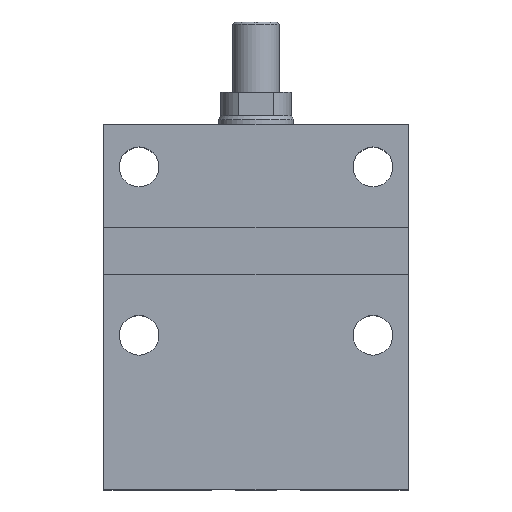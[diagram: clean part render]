
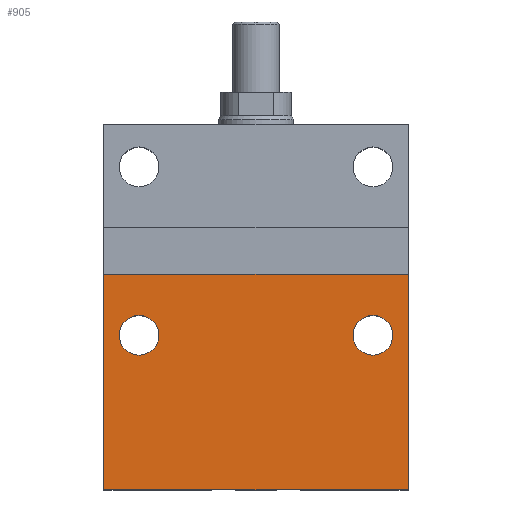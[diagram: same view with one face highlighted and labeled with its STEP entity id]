
A CAD part, top view. The second image highlights one B-rep face of the part: STEP entity #905.
In plain terms, the highlighted planar face has unit normal (0, 0, 1).
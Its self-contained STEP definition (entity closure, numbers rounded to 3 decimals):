
#40 = FACE_BOUND ( 'NONE', #2728, .T. ) ;
#43 = LINE ( 'NONE', #2723, #2615 ) ;
#243 = CARTESIAN_POINT ( 'NONE',  ( 29.25, 33., 22.5 ) ) ;
#273 = DIRECTION ( 'NONE',  ( 0., 0., -1. ) ) ;
#281 = CARTESIAN_POINT ( 'NONE',  ( -32.5, 0., 22.5 ) ) ;
#286 = ORIENTED_EDGE ( 'NONE', *, *, #2476, .F. ) ;
#298 = VECTOR ( 'NONE', #1770, 1000. ) ;
#362 = CARTESIAN_POINT ( 'NONE',  ( -25., 33., 22.5 ) ) ;
#367 = CARTESIAN_POINT ( 'NONE',  ( 25., 33., 22.5 ) ) ;
#405 = VERTEX_POINT ( 'NONE', #1231 ) ;
#480 = AXIS2_PLACEMENT_3D ( 'NONE', #2002, #1560, #1374 ) ;
#505 = DIRECTION ( 'NONE',  ( 1., 0., 0. ) ) ;
#595 = DIRECTION ( 'NONE',  ( 0., 0., 1. ) ) ;
#678 = EDGE_CURVE ( 'NONE', #1819, #2264, #43, .T. ) ;
#732 = DIRECTION ( 'NONE',  ( -1., 0., 0. ) ) ;
#756 = CARTESIAN_POINT ( 'NONE',  ( -32.5, 58., 22.5 ) ) ;
#781 = ORIENTED_EDGE ( 'NONE', *, *, #2014, .F. ) ;
#833 = EDGE_CURVE ( 'NONE', #2347, #405, #1202, .T. ) ;
#841 = CIRCLE ( 'NONE', #480, 4.25 ) ;
#890 = ORIENTED_EDGE ( 'NONE', *, *, #678, .T. ) ;
#905 = ADVANCED_FACE ( 'NONE', ( #40, #1096, #2845 ), #1636, .F. ) ;
#968 = VERTEX_POINT ( 'NONE', #1253 ) ;
#994 = DIRECTION ( 'NONE',  ( 1., 0., 0. ) ) ;
#1074 = DIRECTION ( 'NONE',  ( 1., 0., 0. ) ) ;
#1096 = FACE_BOUND ( 'NONE', #2680, .T. ) ;
#1135 = DIRECTION ( 'NONE',  ( 0., -1., 0. ) ) ;
#1193 = CARTESIAN_POINT ( 'NONE',  ( -32.5, 46., 22.5 ) ) ;
#1202 = CIRCLE ( 'NONE', #2520, 4.25 ) ;
#1209 = DIRECTION ( 'NONE',  ( 0., 0., 1. ) ) ;
#1231 = CARTESIAN_POINT ( 'NONE',  ( -29.25, 33., 22.5 ) ) ;
#1253 = CARTESIAN_POINT ( 'NONE',  ( 32.5, 0., 22.5 ) ) ;
#1325 = EDGE_LOOP ( 'NONE', ( #781, #2393, #890, #1594 ) ) ;
#1374 = DIRECTION ( 'NONE',  ( 1., 0., 0. ) ) ;
#1381 = LINE ( 'NONE', #1431, #2463 ) ;
#1425 = CARTESIAN_POINT ( 'NONE',  ( 32.5, 46., 22.5 ) ) ;
#1431 = CARTESIAN_POINT ( 'NONE',  ( -32.5, 46., 22.5 ) ) ;
#1484 = LINE ( 'NONE', #2801, #2104 ) ;
#1560 = DIRECTION ( 'NONE',  ( 0., 0., 1. ) ) ;
#1561 = EDGE_CURVE ( 'NONE', #405, #2347, #2580, .T. ) ;
#1586 = EDGE_CURVE ( 'NONE', #1845, #2312, #841, .T. ) ;
#1594 = ORIENTED_EDGE ( 'NONE', *, *, #1645, .T. ) ;
#1603 = CIRCLE ( 'NONE', #2095, 4.25 ) ;
#1636 = PLANE ( 'NONE',  #2504 ) ;
#1645 = EDGE_CURVE ( 'NONE', #2264, #968, #2921, .T. ) ;
#1707 = DIRECTION ( 'NONE',  ( 0., 0., 1. ) ) ;
#1770 = DIRECTION ( 'NONE',  ( 1., 0., 0. ) ) ;
#1819 = VERTEX_POINT ( 'NONE', #1193 ) ;
#1827 = EDGE_CURVE ( 'NONE', #1819, #2018, #1381, .T. ) ;
#1845 = VERTEX_POINT ( 'NONE', #1882 ) ;
#1882 = CARTESIAN_POINT ( 'NONE',  ( 20.75, 33., 22.5 ) ) ;
#1887 = ORIENTED_EDGE ( 'NONE', *, *, #1586, .F. ) ;
#2002 = CARTESIAN_POINT ( 'NONE',  ( 25., 33., 22.5 ) ) ;
#2014 = EDGE_CURVE ( 'NONE', #2018, #968, #1484, .T. ) ;
#2018 = VERTEX_POINT ( 'NONE', #1425 ) ;
#2095 = AXIS2_PLACEMENT_3D ( 'NONE', #367, #1707, #1074 ) ;
#2104 = VECTOR ( 'NONE', #2410, 1000. ) ;
#2203 = ORIENTED_EDGE ( 'NONE', *, *, #1561, .F. ) ;
#2264 = VERTEX_POINT ( 'NONE', #281 ) ;
#2312 = VERTEX_POINT ( 'NONE', #243 ) ;
#2347 = VERTEX_POINT ( 'NONE', #2915 ) ;
#2393 = ORIENTED_EDGE ( 'NONE', *, *, #1827, .F. ) ;
#2410 = DIRECTION ( 'NONE',  ( 0., -1., 0. ) ) ;
#2463 = VECTOR ( 'NONE', #505, 1000. ) ;
#2476 = EDGE_CURVE ( 'NONE', #2312, #1845, #1603, .T. ) ;
#2504 = AXIS2_PLACEMENT_3D ( 'NONE', #756, #273, #732 ) ;
#2520 = AXIS2_PLACEMENT_3D ( 'NONE', #2528, #1209, #994 ) ;
#2528 = CARTESIAN_POINT ( 'NONE',  ( -25., 33., 22.5 ) ) ;
#2580 = CIRCLE ( 'NONE', #2592, 4.25 ) ;
#2592 = AXIS2_PLACEMENT_3D ( 'NONE', #362, #595, #2636 ) ;
#2615 = VECTOR ( 'NONE', #1135, 1000. ) ;
#2636 = DIRECTION ( 'NONE',  ( 1., 0., 0. ) ) ;
#2680 = EDGE_LOOP ( 'NONE', ( #286, #1887 ) ) ;
#2723 = CARTESIAN_POINT ( 'NONE',  ( -32.5, 58., 22.5 ) ) ;
#2728 = EDGE_LOOP ( 'NONE', ( #2762, #2203 ) ) ;
#2762 = ORIENTED_EDGE ( 'NONE', *, *, #833, .F. ) ;
#2801 = CARTESIAN_POINT ( 'NONE',  ( 32.5, 58., 22.5 ) ) ;
#2845 = FACE_OUTER_BOUND ( 'NONE', #1325, .T. ) ;
#2901 = CARTESIAN_POINT ( 'NONE',  ( -32.5, 0., 22.5 ) ) ;
#2915 = CARTESIAN_POINT ( 'NONE',  ( -20.75, 33., 22.5 ) ) ;
#2921 = LINE ( 'NONE', #2901, #298 ) ;
